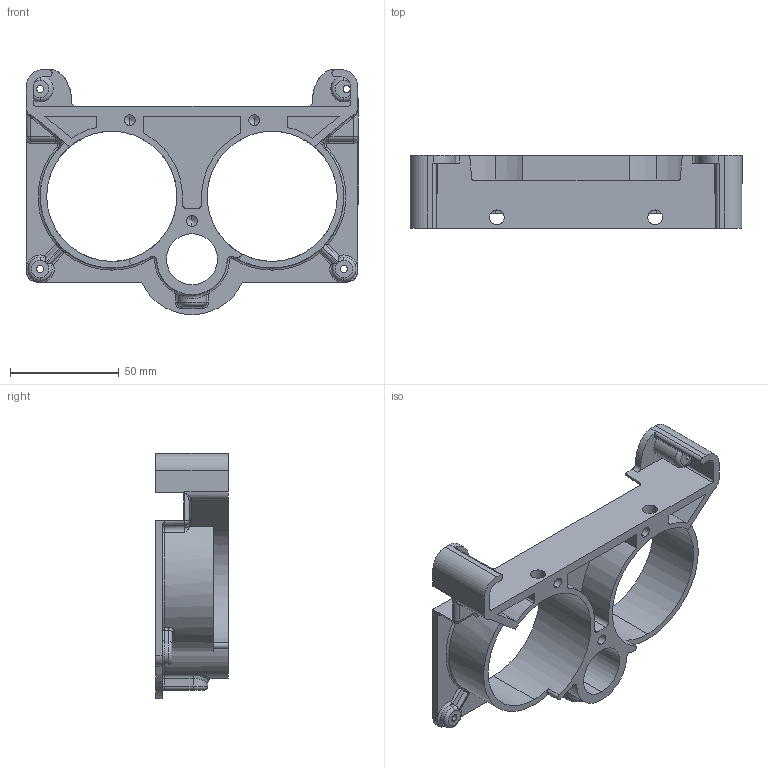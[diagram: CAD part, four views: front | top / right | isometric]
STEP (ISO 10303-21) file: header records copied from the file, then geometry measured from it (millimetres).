
FILE_DESCRIPTION (( 'STEP AP203' ), '1' );
FILE_NAME ('14.STEP', '2025-02-10T09:12:05', ( '' ), ( '' ), 'SwSTEP 2.0', 'SolidWorks 2021', '' );
FILE_SCHEMA (( 'CONFIG_CONTROL_DESIGN' ));
Length unit declared in the file: millimetre
Products named in the file (1): 14
Bounding box: 153 x 33.5 x 113 mm (x, y, z)
Volume: 92948.7 mm3; surface area: 54734.8 mm2
Topology: 1 solids, 1 shells, 253 faces, 680 edges, 422 vertices
Faces by surface type: cylinder 107, plane 71, torus 44, bspline 21, cone 6, sphere 4
Entity records: 9277 total; most frequent: CARTESIAN_POINT 2859, DIRECTION 1364, ORIENTED_EDGE 1348, EDGE_CURVE 674, AXIS2_PLACEMENT_3D 539, VERTEX_POINT 421, CIRCLE 306, VECTOR 286
